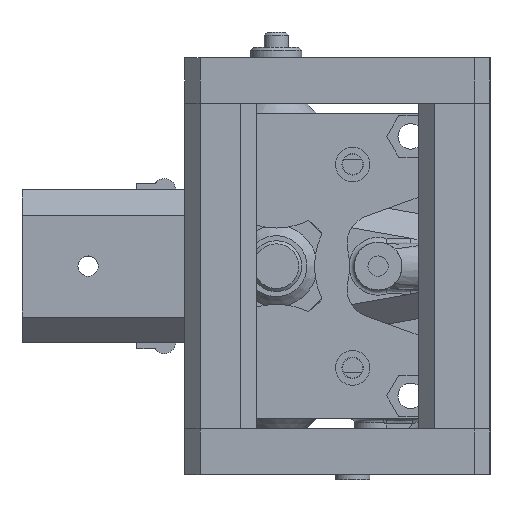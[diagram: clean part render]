
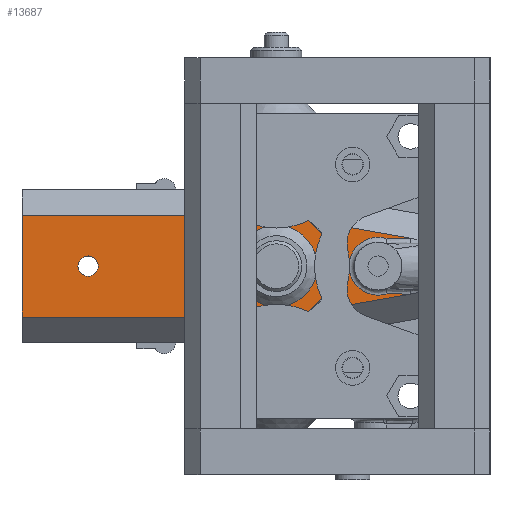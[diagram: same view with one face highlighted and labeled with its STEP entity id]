
A CAD part, left-side view. The second image highlights one B-rep face of the part: STEP entity #13687.
In plain terms, the highlighted planar face has unit normal (-1, 0, 0).
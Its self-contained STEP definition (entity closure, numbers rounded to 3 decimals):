
#892=B_SPLINE_CURVE_WITH_KNOTS('',3,(#23323,#23324,#23325,#23326),
 .UNSPECIFIED.,.F.,.F.,(4,4),(-0.547,-0.083),
 .UNSPECIFIED.);
#899=B_SPLINE_CURVE_WITH_KNOTS('',3,(#23451,#23452,#23453,#23454),
 .UNSPECIFIED.,.F.,.F.,(4,4),(-0.882,-0.419),
 .UNSPECIFIED.);
#1898=LINE('',#23222,#3111);
#1901=LINE('',#23609,#3114);
#1902=LINE('',#23613,#3115);
#1903=LINE('',#23615,#3116);
#1904=LINE('',#23617,#3117);
#3111=VECTOR('',#17764,10.);
#3114=VECTOR('',#17801,10.);
#3115=VECTOR('',#17804,10.);
#3116=VECTOR('',#17805,10.);
#3117=VECTOR('',#17806,10.);
#3751=PLANE('',#15039);
#4098=FACE_BOUND('',#5680,.T.);
#4099=FACE_BOUND('',#5681,.T.);
#4722=FACE_OUTER_BOUND('',#5679,.T.);
#5679=EDGE_LOOP('',(#12117,#12118,#12119,#12120,#12121,#12122,#12123,#12124,
#12125,#12126));
#5680=EDGE_LOOP('',(#12127));
#5681=EDGE_LOOP('',(#12128));
#6176=CIRCLE('',#14946,2.);
#6209=CIRCLE('',#15032,5.7);
#6214=CIRCLE('',#15040,10.);
#6215=CIRCLE('',#15041,10.);
#6216=CIRCLE('',#15042,8.);
#7149=VERTEX_POINT('',#22827);
#7219=VERTEX_POINT('',#23196);
#7220=VERTEX_POINT('',#23221);
#7226=VERTEX_POINT('',#23320);
#7227=VERTEX_POINT('',#23322);
#7229=VERTEX_POINT('',#23373);
#7237=VERTEX_POINT('',#23608);
#7238=VERTEX_POINT('',#23610);
#7239=VERTEX_POINT('',#23612);
#7240=VERTEX_POINT('',#23614);
#7241=VERTEX_POINT('',#23616);
#7242=VERTEX_POINT('',#23619);
#8808=EDGE_CURVE('',#7149,#7149,#6176,.T.);
#8896=EDGE_CURVE('',#7219,#7220,#1898,.T.);
#8907=EDGE_CURVE('',#7226,#7227,#892,.T.);
#8910=EDGE_CURVE('',#7227,#7229,#6209,.T.);
#8916=EDGE_CURVE('',#7229,#7219,#899,.T.);
#8927=EDGE_CURVE('',#7237,#7226,#1901,.T.);
#8928=EDGE_CURVE('',#7238,#7237,#6214,.T.);
#8929=EDGE_CURVE('',#7239,#7238,#1902,.T.);
#8930=EDGE_CURVE('',#7240,#7239,#1903,.T.);
#8931=EDGE_CURVE('',#7241,#7240,#1904,.T.);
#8932=EDGE_CURVE('',#7220,#7241,#6215,.T.);
#8933=EDGE_CURVE('',#7242,#7242,#6216,.T.);
#12117=ORIENTED_EDGE('',*,*,#8916,.F.);
#12118=ORIENTED_EDGE('',*,*,#8910,.F.);
#12119=ORIENTED_EDGE('',*,*,#8907,.F.);
#12120=ORIENTED_EDGE('',*,*,#8927,.F.);
#12121=ORIENTED_EDGE('',*,*,#8928,.F.);
#12122=ORIENTED_EDGE('',*,*,#8929,.F.);
#12123=ORIENTED_EDGE('',*,*,#8930,.F.);
#12124=ORIENTED_EDGE('',*,*,#8931,.F.);
#12125=ORIENTED_EDGE('',*,*,#8932,.F.);
#12126=ORIENTED_EDGE('',*,*,#8896,.F.);
#12127=ORIENTED_EDGE('',*,*,#8808,.T.);
#12128=ORIENTED_EDGE('',*,*,#8933,.F.);
#13687=ADVANCED_FACE('',(#4722,#4098,#4099),#3751,.F.);
#14946=AXIS2_PLACEMENT_3D('',#22828,#17582,#17583);
#15032=AXIS2_PLACEMENT_3D('',#23374,#17784,#17785);
#15039=AXIS2_PLACEMENT_3D('',#23607,#17799,#17800);
#15040=AXIS2_PLACEMENT_3D('',#23611,#17802,#17803);
#15041=AXIS2_PLACEMENT_3D('',#23618,#17807,#17808);
#15042=AXIS2_PLACEMENT_3D('',#23620,#17809,#17810);
#17582=DIRECTION('center_axis',(1.,0.,0.));
#17583=DIRECTION('ref_axis',(0.,0.,1.));
#17764=DIRECTION('',(0.,0.985,-0.174));
#17784=DIRECTION('center_axis',(-1.,0.,0.));
#17785=DIRECTION('ref_axis',(0.,1.,0.));
#17799=DIRECTION('center_axis',(1.,0.,0.));
#17800=DIRECTION('ref_axis',(0.,0.,-1.));
#17801=DIRECTION('',(0.,-0.985,-0.174));
#17802=DIRECTION('center_axis',(1.,0.,0.));
#17803=DIRECTION('ref_axis',(0.,-1.,0.));
#17804=DIRECTION('',(0.,-1.,0.));
#17805=DIRECTION('',(0.,0.,1.));
#17806=DIRECTION('',(0.,1.,0.));
#17807=DIRECTION('center_axis',(1.,0.,0.));
#17808=DIRECTION('ref_axis',(0.,-1.,0.));
#17809=DIRECTION('center_axis',(-1.,0.,0.));
#17810=DIRECTION('ref_axis',(0.,-1.,0.));
#22827=CARTESIAN_POINT('',(-15.,37.,30.));
#22828=CARTESIAN_POINT('Origin',(-15.,37.,32.));
#23196=CARTESIAN_POINT('',(-15.,-26.406,26.502));
#23221=CARTESIAN_POINT('',(-15.,-1.736,22.152));
#23222=CARTESIAN_POINT('',(-15.,-18.284,25.07));
#23320=CARTESIAN_POINT('',(-15.,-26.405,37.498));
#23322=CARTESIAN_POINT('',(-15.,-21.774,37.417));
#23323=CARTESIAN_POINT('Ctrl Pts',(-15.,-26.405,37.498));
#23324=CARTESIAN_POINT('Ctrl Pts',(-15.,-24.861,37.508));
#23325=CARTESIAN_POINT('Ctrl Pts',(-15.,-23.317,37.476));
#23326=CARTESIAN_POINT('Ctrl Pts',(-15.,-21.774,37.417));
#23373=CARTESIAN_POINT('',(-15.,-21.772,26.582));
#23374=CARTESIAN_POINT('Origin',(-15.,-20.,32.));
#23451=CARTESIAN_POINT('Ctrl Pts',(-15.,-21.772,26.583));
#23452=CARTESIAN_POINT('Ctrl Pts',(-15.,-23.316,26.524));
#23453=CARTESIAN_POINT('Ctrl Pts',(-15.,-24.861,26.492));
#23454=CARTESIAN_POINT('Ctrl Pts',(-15.,-26.406,26.502));
#23607=CARTESIAN_POINT('Origin',(-15.,0.,32.));
#23608=CARTESIAN_POINT('',(-15.,-1.736,41.848));
#23609=CARTESIAN_POINT('',(-15.,-1.736,41.848));
#23610=CARTESIAN_POINT('',(-15.,0.,42.));
#23611=CARTESIAN_POINT('Origin',(-15.,0.,32.));
#23612=CARTESIAN_POINT('',(-15.,50.,42.));
#23613=CARTESIAN_POINT('',(-15.,0.,42.));
#23614=CARTESIAN_POINT('',(-15.,50.,22.));
#23615=CARTESIAN_POINT('',(-15.,50.,17.));
#23616=CARTESIAN_POINT('',(-15.,0.,22.));
#23617=CARTESIAN_POINT('',(-15.,0.,22.));
#23618=CARTESIAN_POINT('Origin',(-15.,0.,32.));
#23619=CARTESIAN_POINT('',(-15.,8.,32.));
#23620=CARTESIAN_POINT('Origin',(-15.,0.,32.));
